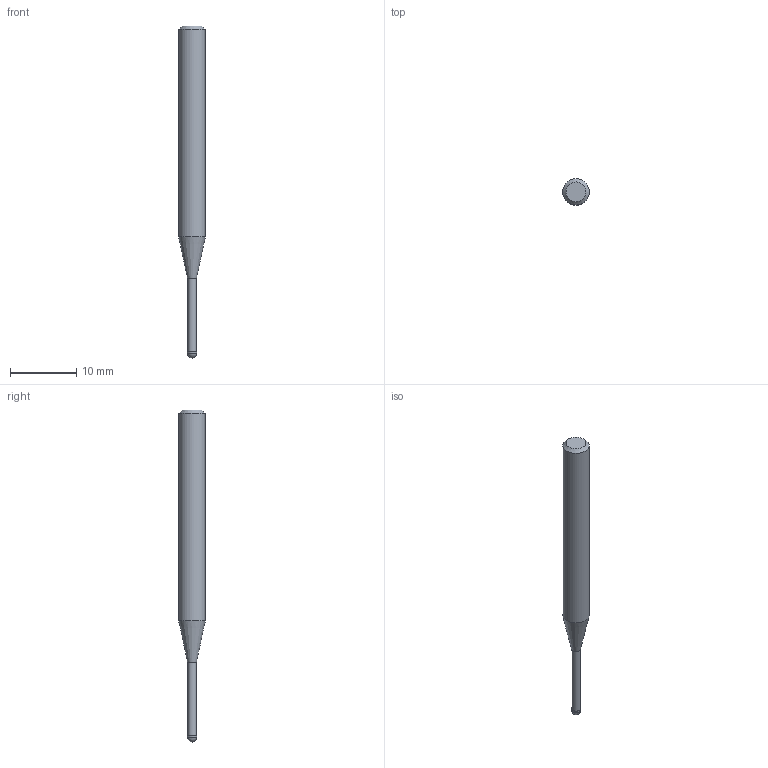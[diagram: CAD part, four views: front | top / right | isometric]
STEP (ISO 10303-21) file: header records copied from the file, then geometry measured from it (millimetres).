
FILE_DESCRIPTION((''),'2;1');
FILE_NAME('C:\Users\nsx150\AppData\Local\Temp\Mastercam 2021\ARV7HD45SN\TEMP.step','2023-06-13T16:36:14',(''),(''),'STEP Write','Mastercam 2021 ... CNC Software, Inc.','');
FILE_SCHEMA(('AUTOMOTIVE_DESIGN'));
Length unit declared in the file: millimetre
Products named in the file (1): None
Bounding box: 4 x 4 x 50 mm (x, y, z)
Volume: 452.6 mm3; surface area: 515.3 mm2
Topology: 2 solids, 2 shells, 9 faces, 14 edges, 8 vertices
Faces by surface type: plane 3, cylinder 3, cone 2, sphere 1
Full cylindrical faces by diameter (mm): 1.35 x1, 1.4 x1, 4 x1
Entity records: 211 total; most frequent: DIRECTION 36, CARTESIAN_POINT 25, AXIS2_PLACEMENT_3D 18, ORIENTED_EDGE 14, EDGE_LOOP 14, STYLED_ITEM 12, ADVANCED_FACE 9, FACE_BOUND 8
